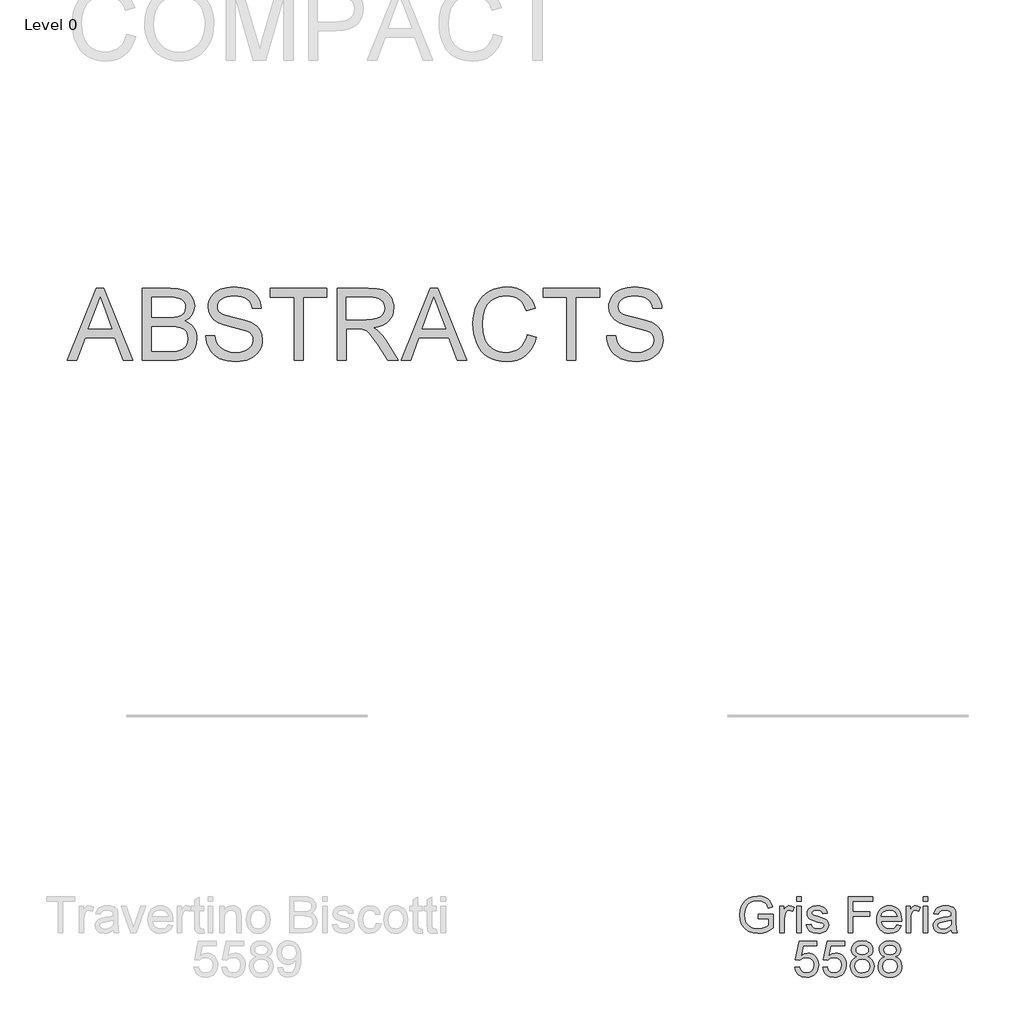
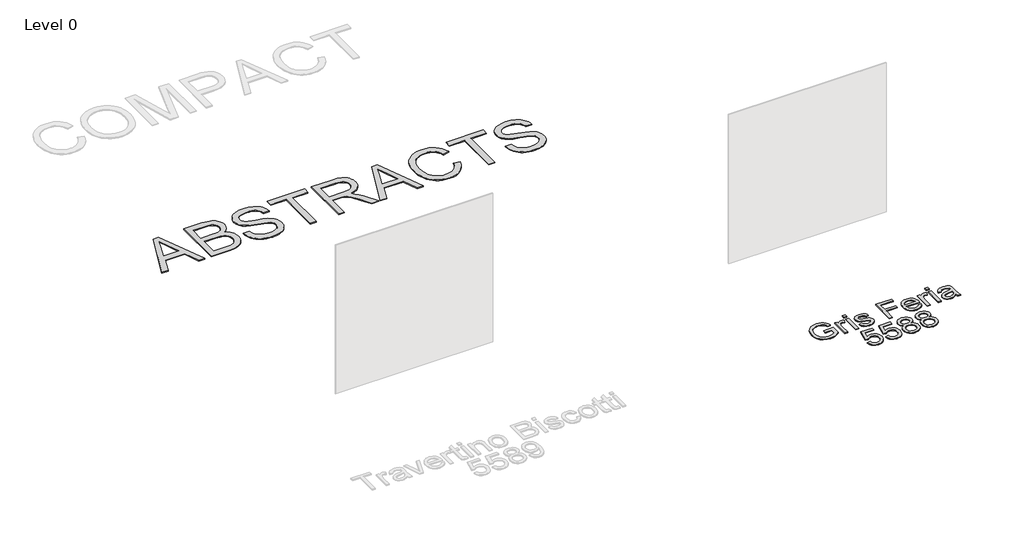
# One storey, part 4 of 8: 2 proxies.
"""IFC4 building model written with IfcOpenShell, lengths in millimetres."""

from ifc_helpers import new_model, si_unit, origin, origin_with_axes, place, context, project, spatial, polyline, outline, extrude, element, save

model = new_model("IFC4")

# Units and contexts
model_context = context("Model", 3, world=origin())
ifc_project = project(units=[si_unit("LENGTHUNIT", "METRE", prefix="MILLI")], contexts=[model_context])

# Site, building, storey
site = spatial("IfcSite", under=ifc_project)
building = spatial("IfcBuilding", under=site)
storey = spatial("IfcBuildingStorey", under=building, Name="Level 0", Elevation=0.0)

# Proxies
placement = place(None, origin())
element("IfcBuildingElementProxy", 1, Name="300mm Arial", ObjectType="300mm Arial", at=placement, inside=storey, context=model_context, shape_type="SweptSolid", body=[
    extrude(outline(polyline([(-5197.0170481, -6885.1382555), (-5197.0170481, -6847.4671392), (-5074.5859201, -6847.4671392), (-5074.5859201, -6960.1126061), (-5104.3383765, -6980.8059684), (-5135.0289319, -6995.6500069), (-5166.5840101, -7004.5895394), (-5198.9300345, -7007.5693835), (-5241.1904787, -7002.8329028), (-5279.3858268, -6988.6234608), (-5311.1156489, -6965.437698), (-5333.9795149, -6933.7722553), (-5347.8026809, -6895.7884393), (-5352.4104029, -6853.6475567), (-5347.821075, -6811.2031715), (-5334.0530913, -6771.7202364), (-5311.676669, -6738.6016598), (-5281.262025, -6715.2503502), (-5244.2163081, -6701.399593), (-5201.9466669, -6696.782674), (-5170.9158206, -6699.4590155), (-5143.0119712, -6707.4880401), (-5119.5135088, -6720.2903335), (-5101.6988232, -6737.2864817), (-5088.5194507, -6759.295022), (-5078.9269277, -6787.134492), (-5113.654988, -6796.9201531), (-5121.4081011, -6777.0637224), (-5130.8350772, -6762.0817281), (-5143.3062768, -6750.7877509), (-5160.1920604, -6741.9953712), (-5180.3244026, -6736.3391855), (-5202.535278, -6734.4537903), (-5228.5353381, -6736.4863383), (-5250.7646076, -6742.5839824), (-5269.1403133, -6751.9833674), (-5283.5796816, -6763.9211381), (-5302.9670627, -6792.9470275), (-5311.7962306, -6821.3843058), (-5314.7392866, -6852.1024524), (-5311.1984224, -6888.1272967), (-5300.5758298, -6917.7693885), (-5283.1934055, -6940.8171955), (-5259.3730463, -6957.0591856), (-5231.4967881, -6966.6884968), (-5201.9466669, -6969.8982672), (-5175.8546363, -6967.4794431), (-5150.4063993, -6960.2229707), (-5128.3058885, -6950.2257775), (-5112.2570364, -6939.5847908), (-5112.2570364, -6885.1382555), (-5197.0170481, -6885.1382555)])), origin_with_axes(), (0.0, 0.0, 1.0), 10.0),
    extrude(outline(polyline([(-5018.0792457, -7002.860494), (-5018.0792457, -6781.5426857), (-4985.1170189, -6781.5426857), (-4985.1170189, -6814.2841833), (-4972.9401249, -6795.3014723), (-4961.719724, -6784.1178596), (-4950.462535, -6778.654812), (-4938.1752763, -6776.8337961), (-4919.4132946, -6779.7400639), (-4900.3570072, -6788.4588672), (-4912.9385714, -6822.2304343), (-4926.1823233, -6816.4362929), (-4939.4260751, -6814.5049125), (-4950.6740671, -6816.3627165), (-4960.7264426, -6821.9361288), (-4968.8474377, -6830.8020848), (-4974.3012882, -6842.5375205), (-4978.8814191, -6863.5803706), (-4980.4081294, -6886.5362071), (-4980.4081294, -7002.860494), (-5018.0792457, -7002.860494)])), origin_with_axes(), (0.0, 0.0, 1.0), 10.0),
    extrude(outline(polyline([(-4876.8125595, -6739.1626798), (-4876.8125595, -6701.4915635), (-4839.1414432, -6701.4915635), (-4839.1414432, -6739.1626798), (-4876.8125595, -6739.1626798)])), origin_with_axes(), (0.0, 0.0, 1.0), 10.0),
    extrude(outline(polyline([(-4876.8125595, -7002.860494), (-4876.8125595, -6781.5426857), (-4839.1414432, -6781.5426857), (-4839.1414432, -7002.860494), (-4876.8125595, -7002.860494)])), origin_with_axes(), (0.0, 0.0, 1.0), 10.0),
    extrude(outline(polyline([(-4796.7614374, -6936.9360404), (-4759.0903211, -6932.2271509), (-4753.1490268, -6948.3403823), (-4741.6527145, -6960.1861825), (-4724.5278076, -6967.470246), (-4701.7007298, -6969.8982672), (-4679.1495635, -6967.6725811), (-4663.2938495, -6960.9955229), (-4653.9128586, -6951.3202265), (-4650.7858617, -6940.0998256), (-4653.9312527, -6930.4981055), (-4663.3674259, -6923.1772538), (-4702.1421882, -6912.4350996), (-4758.8695919, -6894.0042116), (-4773.2261867, -6884.7427824), (-4783.6280501, -6872.4831149), (-4789.9464234, -6858.0069584), (-4792.0525478, -6842.0960621), (-4790.3602907, -6827.5003439), (-4785.2835191, -6814.0266659), (-4777.2820857, -6802.2084568), (-4766.815843, -6792.5791455), (-4742.8667251, -6781.4323211), (-4710.4563213, -6776.8337961), (-4685.9369863, -6778.6824032), (-4664.6182247, -6784.2282242), (-4647.4749237, -6792.9286334), (-4635.4819707, -6804.2410048), (-4627.5357196, -6819.0022698), (-4622.5325245, -6838.0493601), (-4660.2036408, -6842.7582497), (-4664.9585155, -6830.9032524), (-4674.3670976, -6821.972917), (-4688.5213573, -6816.3719136), (-4707.5132653, -6814.5049125), (-4729.1447267, -6816.2891401), (-4743.5657009, -6821.6418232), (-4751.6774989, -6829.3673451), (-4754.3814315, -6838.2700893), (-4749.8932712, -6849.2329728), (-4735.840179, -6857.5471059), (-4703.392987, -6865.5669334), (-4648.1003231, -6883.2988455), (-4633.4954079, -6891.7785255), (-4622.4221599, -6903.3852025), (-4615.441599, -6918.1556646), (-4613.1147454, -6936.1267001), (-4615.8462692, -6954.7047408), (-4624.0408406, -6972.1791356), (-4637.38576, -6987.1795239), (-4655.5683276, -6998.3355454), (-4677.5308827, -7005.260924), (-4702.2157646, -7007.5693835), (-4740.1995806, -7003.1180114), (-4767.9194889, -6989.763895), (-4786.4239533, -6967.654187), (-4796.7614374, -6936.9360404)])), origin_with_axes(), (0.0, 0.0, 1.0), 10.0),
    extrude(outline(polyline([(-4448.3036115, -7002.860494), (-4448.3036115, -6701.4915635), (-4245.8213614, -6701.4915635), (-4245.8213614, -6739.1626798), (-4410.6324952, -6739.1626798), (-4410.6324952, -6828.6315811), (-4269.3658091, -6828.6315811), (-4269.3658091, -6866.3026974), (-4410.6324952, -6866.3026974), (-4410.6324952, -7002.860494), (-4448.3036115, -7002.860494)])), origin_with_axes(), (0.0, 0.0, 1.0), 10.0),
    extrude(outline(polyline([(-4043.7805696, -6936.9360404), (-4006.8452173, -6941.64493), (-4020.1533485, -6969.4752029), (-4041.3893367, -6990.2789297), (-4070.0749352, -7003.2467701), (-4105.7318976, -7007.5693835), (-4129.1061999, -7005.7046817), (-4149.9329194, -7000.1105761), (-4168.212056, -6990.7870668), (-4183.9436098, -6977.7341537), (-4196.5941519, -6961.3151204), (-4205.6302534, -6941.8932503), (-4211.0519143, -6919.4685435), (-4212.8591346, -6894.0409998), (-4211.0335202, -6867.7512327), (-4205.556677, -6844.5792656), (-4196.428605, -6824.5250983), (-4183.6493042, -6807.5887309), (-4167.9591371, -6794.133447), (-4150.0984662, -6784.5225298), (-4130.0672916, -6778.7559796), (-4107.8656132, -6776.8337961), (-4086.3790054, -6778.751381), (-4066.9479383, -6784.5041357), (-4049.5724118, -6794.0920602), (-4034.252426, -6807.5151545), (-4021.7467374, -6824.4147337), (-4012.8141027, -6844.4321128), (-4007.4545219, -6867.5672917), (-4005.6679949, -6893.8202706), (-4005.8887241, -6903.9738137), (-4175.1880183, -6903.9738137), (-4168.66731, -6932.1719686), (-4153.5197688, -6952.902119), (-4131.6583812, -6965.6492302), (-4104.9961336, -6969.8982672), (-4084.9465649, -6967.9300985), (-4068.0607813, -6962.0255925), (-4054.3387829, -6951.8168672), (-4043.7805696, -6936.9360404)]), holes=[polyline([(-4175.1880183, -6866.3026974), (-4043.3391112, -6866.3026974), (-4048.4342769, -6846.4002814), (-4058.422273, -6832.1632482), (-4080.3848282, -6818.9194964), (-4108.012766, -6814.5049125), (-4133.4058207, -6818.0273826), (-4154.4026856, -6828.5947929), (-4168.9984038, -6845.0667092), (-4175.1880183, -6866.3026974)])]), origin_with_axes(), (0.0, 0.0, 1.0), 10.0),
    extrude(outline(polyline([(-3967.9968786, -7002.860494), (-3967.9968786, -6781.5426857), (-3935.0346519, -6781.5426857), (-3935.0346519, -6814.2841833), (-3922.8577578, -6795.3014723), (-3911.637357, -6784.1178596), (-3900.3801679, -6778.654812), (-3888.0929093, -6776.8337961), (-3869.3309275, -6779.7400639), (-3850.2746402, -6788.4588672), (-3862.8562044, -6822.2304343), (-3876.0999562, -6816.4362929), (-3889.3437081, -6814.5049125), (-3900.5917001, -6816.3627165), (-3910.6440756, -6821.9361288), (-3918.7650706, -6830.8020848), (-3924.2189212, -6842.5375205), (-3928.799052, -6863.5803706), (-3930.3257623, -6886.5362071), (-3930.3257623, -7002.860494), (-3967.9968786, -7002.860494)])), origin_with_axes(), (0.0, 0.0, 1.0), 10.0),
    extrude(outline(polyline([(-3826.7301925, -6739.1626798), (-3826.7301925, -6701.4915635), (-3789.0590762, -6701.4915635), (-3789.0590762, -6739.1626798), (-3826.7301925, -6739.1626798)])), origin_with_axes(), (0.0, 0.0, 1.0), 10.0),
    extrude(outline(polyline([(-3826.7301925, -7002.860494), (-3826.7301925, -6781.5426857), (-3789.0590762, -6781.5426857), (-3789.0590762, -7002.860494), (-3826.7301925, -7002.860494)])), origin_with_axes(), (0.0, 0.0, 1.0), 10.0),
    extrude(outline(polyline([(-3591.2857156, -6974.6071568), (-3609.2843422, -6990.0398064), (-3627.8163977, -7000.1381672), (-3647.3049464, -7005.7115794), (-3668.1730526, -7007.5693835), (-3699.6545543, -7003.0996173), (-3722.8771052, -6989.6903186), (-3737.1969119, -6969.3280501), (-3741.9701808, -6943.9993748), (-3740.167559, -6928.3827841), (-3734.7596937, -6914.2009331), (-3726.4179695, -6902.0608273), (-3715.8137709, -6892.5694718), (-3689.4366319, -6880.2086368), (-3656.8422871, -6874.5432541), (-3618.3250422, -6868.5835657), (-3591.5064448, -6861.5938078), (-3591.2857156, -6853.2060983), (-3593.8792836, -6836.3938912), (-3601.6599878, -6825.3942195), (-3619.0608062, -6817.2272392), (-3643.3042297, -6814.5049125), (-3665.7450314, -6816.3167313), (-3681.4168044, -6821.7521878), (-3692.1037764, -6831.8045633), (-3699.590175, -6847.4671392), (-3737.2612913, -6842.7582497), (-3730.7221888, -6822.156858), (-3720.9641189, -6805.9700502), (-3707.0765736, -6793.590821), (-3688.1490449, -6784.4121652), (-3665.0000704, -6778.7283884), (-3638.4481874, -6776.8337961), (-3612.9815562, -6778.5076592), (-3592.7940318, -6783.5292485), (-3577.5729142, -6791.0800264), (-3567.0055039, -6800.3414556), (-3559.9973519, -6811.7917827), (-3555.4540092, -6825.9092543), (-3553.6145993, -6858.8714811), (-3553.6145993, -6905.7396473), (-3551.7016129, -6971.1858542), (-3544.1968202, -7002.860494), (-3581.8679365, -7002.860494), (-3591.2857156, -6974.6071568)]), holes=[polyline([(-3591.2857156, -6899.2649241), (-3652.0598212, -6910.8164188), (-3684.470225, -6916.9232599), (-3699.1487166, -6926.8560738), (-3704.2990645, -6941.3506244), (-3701.4939643, -6952.5526311), (-3693.0786636, -6961.7312869), (-3679.2371036, -6967.8565221), (-3660.1532251, -6969.8982672), (-3639.9197153, -6967.64499), (-3622.0406504, -6960.8851583), (-3607.5460998, -6950.9247533), (-3597.4661331, -6939.069756), (-3592.9963669, -6926.8560738), (-3591.5064448, -6909.933502), (-3591.2857156, -6899.2649241)])]), origin_with_axes(), (0.0, 0.0, 1.0), 10.0),
    extrude(outline(polyline([(-4893.2936729, -7288.7338254), (-4855.6225566, -7284.0249358), (-4848.7063751, -7306.6404815), (-4836.6398456, -7322.8364863), (-4819.4781506, -7332.5761621), (-4797.2764722, -7335.8227207), (-4770.2739337, -7331.3069693), (-4750.040424, -7317.7597148), (-4737.4036774, -7296.7444558), (-4733.1914286, -7269.8246908), (-4737.136963, -7244.4776213), (-4748.9735662, -7225.0902402), (-4768.7932087, -7212.7845875), (-4796.687861, -7208.6827032), (-4814.9623991, -7210.3197781), (-4829.7604523, -7215.2310027), (-4850.9136671, -7232.2271509), (-4888.5847834, -7227.5182614), (-4855.6225566, -7072.1249066), (-4709.6469809, -7072.1249066), (-4709.6469809, -7109.7960229), (-4825.1619274, -7109.7960229), (-4841.2751588, -7192.790201), (-4814.3645908, -7176.4562404), (-4786.1664359, -7171.0115869), (-4767.8206207, -7172.6992456), (-4750.969326, -7177.7622215), (-4735.612552, -7186.2005148), (-4721.7502986, -7198.0141254), (-4710.2746796, -7212.4810848), (-4702.0778089, -7228.8794248), (-4697.1596864, -7247.2091452), (-4695.5203123, -7267.470246), (-4701.4248183, -7305.1413624), (-4708.8054508, -7321.9351754), (-4719.1383364, -7337.3678251), (-4734.7917153, -7353.1729553), (-4753.0570563, -7364.4623341), (-4773.9343596, -7371.2359613), (-4797.423625, -7373.4938371), (-4834.4233566, -7367.6904986), (-4850.1020274, -7360.4363255), (-4863.8999015, -7350.2804832), (-4875.380119, -7337.7288093), (-4884.1058201, -7323.2871418), (-4893.2936729, -7288.7338254)])), origin_with_axes(), (0.0, 0.0, 1.0), 10.0),
    extrude(outline(polyline([(-4662.5580855, -7288.7338254), (-4624.8869692, -7284.0249358), (-4617.9707877, -7306.6404815), (-4605.9042583, -7322.8364863), (-4588.7425632, -7332.5761621), (-4566.5408848, -7335.8227207), (-4539.5383463, -7331.3069693), (-4519.3048366, -7317.7597148), (-4506.6680901, -7296.7444558), (-4502.4558412, -7269.8246908), (-4506.4013756, -7244.4776213), (-4518.2379788, -7225.0902402), (-4538.0576213, -7212.7845875), (-4565.9522736, -7208.6827032), (-4584.2268117, -7210.3197781), (-4599.024865, -7215.2310027), (-4620.1780797, -7232.2271509), (-4657.849196, -7227.5182614), (-4624.8869692, -7072.1249066), (-4478.9113935, -7072.1249066), (-4478.9113935, -7109.7960229), (-4594.42634, -7109.7960229), (-4610.5395714, -7192.790201), (-4583.6290035, -7176.4562404), (-4555.4308485, -7171.0115869), (-4537.0850333, -7172.6992456), (-4520.2337386, -7177.7622215), (-4504.8769646, -7186.2005148), (-4491.0147112, -7198.0141254), (-4479.5390922, -7212.4810848), (-4471.3422215, -7228.8794248), (-4466.4240991, -7247.2091452), (-4464.7847249, -7267.470246), (-4470.6892309, -7305.1413624), (-4478.0698635, -7321.9351754), (-4488.402749, -7337.3678251), (-4504.0561279, -7353.1729553), (-4522.321469, -7364.4623341), (-4543.1987722, -7371.2359613), (-4566.6880376, -7373.4938371), (-4603.6877693, -7367.6904986), (-4619.36644, -7360.4363255), (-4633.1643141, -7350.2804832), (-4644.6445316, -7337.7288093), (-4653.3702327, -7323.2871418), (-4662.5580855, -7288.7338254)])), origin_with_axes(), (0.0, 0.0, 1.0), 10.0),
    extrude(outline(polyline([(-4376.9345045, -7202.7965913), (-4397.1036349, -7192.8637774), (-4411.2578946, -7179.3992964), (-4419.618013, -7162.6790597), (-4422.4047191, -7142.9789789), (-4420.8872058, -7127.6153071), (-4416.3346662, -7113.5300252), (-4408.7471, -7100.7231332), (-4398.1245074, -7089.1946312), (-4384.9773246, -7079.6664875), (-4369.8159879, -7072.8606706), (-4333.4508526, -7067.4160171), (-4296.8649882, -7072.9894293), (-4281.5381046, -7079.9561946), (-4268.1885867, -7089.709666), (-4257.372856, -7101.4634957), (-4249.6473341, -7114.4313361), (-4245.012021, -7128.613187), (-4243.4669166, -7144.0090485), (-4246.2168345, -7163.0745329), (-4254.4665883, -7179.509661), (-4268.3081483, -7192.8913686), (-4287.8334852, -7202.7965913), (-4264.6477225, -7214.7435591), (-4247.771136, -7232.3375155), (-4237.4796372, -7254.732332), (-4234.0491375, -7281.0818799), (-4235.7505918, -7299.8714528), (-4240.8549545, -7317.0975272), (-4249.3622256, -7332.7601031), (-4261.2724052, -7346.8591806), (-4275.9600938, -7358.5118428), (-4292.7998922, -7366.8351729), (-4311.7918002, -7371.829171), (-4332.9358179, -7373.4938371), (-4354.0798355, -7371.8222732), (-4373.0717435, -7366.8075818), (-4389.9115419, -7358.4497627), (-4404.5992305, -7346.748816), (-4416.5094101, -7332.5508703), (-4425.0166812, -7316.702054), (-4430.1210439, -7299.2023674), (-4431.8224982, -7280.0518103), (-4428.2540428, -7252.6813898), (-4417.5486767, -7230.1670117), (-4400.258223, -7213.2812282), (-4376.9345045, -7202.7965913)]), holes=[polyline([(-4384.7336028, -7144.0826249), (-4381.3950737, -7160.52695), (-4371.3794863, -7173.6603373), (-4354.9811464, -7182.268776), (-4332.4943595, -7185.1382555), (-4310.5318043, -7182.2871701), (-4294.3817848, -7173.7339137), (-4284.4489709, -7161.0419848), (-4281.1380329, -7145.774882), (-4284.5593355, -7129.9283651), (-4294.8232432, -7116.822569), (-4311.1939919, -7108.0209923), (-4332.9358179, -7105.0871334), (-4354.8155995, -7107.9566129), (-4371.1587571, -7116.5650516), (-4381.3398914, -7129.1834041), (-4384.7336028, -7144.0826249)]), polyline([(-4394.1513818, -7278.7274351), (-4387.8605997, -7307.0911369), (-4379.1509935, -7319.2588339), (-4365.603739, -7328.317928), (-4349.380143, -7333.9465226), (-4332.6415123, -7335.8227207), (-4307.0001372, -7331.8771864), (-4287.7599088, -7320.0405832), (-4275.7301676, -7302.1155329), (-4271.7202539, -7279.9046575), (-4275.8589263, -7257.316703), (-4288.2749436, -7238.9961796), (-4307.9566304, -7226.8560738), (-4333.892311, -7222.8093718), (-4359.1750012, -7226.8008915), (-4378.2220915, -7238.7754504), (-4390.1690593, -7256.7464859), (-4394.1513818, -7278.7274351)])]), origin_with_axes(), (0.0, 0.0, 1.0), 10.0),
    extrude(outline(polyline([(-4146.1989171, -7202.7965913), (-4166.3680475, -7192.8637774), (-4180.5223072, -7179.3992964), (-4188.8824256, -7162.6790597), (-4191.6691317, -7142.9789789), (-4190.1516185, -7127.6153071), (-4185.5990788, -7113.5300252), (-4178.0115126, -7100.7231332), (-4167.38892, -7089.1946312), (-4154.2417372, -7079.6664875), (-4139.0804005, -7072.8606706), (-4102.7152653, -7067.4160171), (-4066.1294008, -7072.9894293), (-4050.8025172, -7079.9561946), (-4037.4529993, -7089.709666), (-4026.6372687, -7101.4634957), (-4018.9117468, -7114.4313361), (-4014.2764336, -7128.613187), (-4012.7313292, -7144.0090485), (-4015.4812472, -7163.0745329), (-4023.7310009, -7179.509661), (-4037.572561, -7192.8913686), (-4057.0978979, -7202.7965913), (-4033.9121351, -7214.7435591), (-4017.0355486, -7232.3375155), (-4006.7440498, -7254.732332), (-4003.3135502, -7281.0818799), (-4005.0150044, -7299.8714528), (-4010.1193671, -7317.0975272), (-4018.6266382, -7332.7601031), (-4030.5368178, -7346.8591806), (-4045.2245065, -7358.5118428), (-4062.0643048, -7366.8351729), (-4081.0562128, -7371.829171), (-4102.2002305, -7373.4938371), (-4123.3442481, -7371.8222732), (-4142.3361561, -7366.8075818), (-4159.1759545, -7358.4497627), (-4173.8636431, -7346.748816), (-4185.7738227, -7332.5508703), (-4194.2810939, -7316.702054), (-4199.3854566, -7299.2023674), (-4201.0869108, -7280.0518103), (-4197.5184554, -7252.6813898), (-4186.8130894, -7230.1670117), (-4169.5226356, -7213.2812282), (-4146.1989171, -7202.7965913)]), holes=[polyline([(-4153.9980154, -7144.0826249), (-4150.6594863, -7160.52695), (-4140.643899, -7173.6603373), (-4124.245559, -7182.268776), (-4101.7587721, -7185.1382555), (-4079.796217, -7182.2871701), (-4063.6461974, -7173.7339137), (-4053.7133835, -7161.0419848), (-4050.4024456, -7145.774882), (-4053.8237481, -7129.9283651), (-4064.0876558, -7116.822569), (-4080.4584046, -7108.0209923), (-4102.2002305, -7105.0871334), (-4124.0800121, -7107.9566129), (-4140.4231698, -7116.5650516), (-4150.604304, -7129.1834041), (-4153.9980154, -7144.0826249)]), polyline([(-4163.4157945, -7278.7274351), (-4157.1250124, -7307.0911369), (-4148.4154061, -7319.2588339), (-4134.8681516, -7328.317928), (-4118.6445557, -7333.9465226), (-4101.9059249, -7335.8227207), (-4076.2645498, -7331.8771864), (-4057.0243215, -7320.0405832), (-4044.9945802, -7302.1155329), (-4040.9846665, -7279.9046575), (-4045.1233389, -7257.316703), (-4057.5393563, -7238.9961796), (-4077.221043, -7226.8560738), (-4103.1567237, -7222.8093718), (-4128.4394138, -7226.8008915), (-4147.4865041, -7238.7754504), (-4159.4334719, -7256.7464859), (-4163.4157945, -7278.7274351)])]), origin_with_axes(), (0.0, 0.0, 1.0), 10.0),
])
element("IfcBuildingElementProxy", 2, Name="600mm Arial", ObjectType="600mm Arial", at=placement, inside=storey, context=model_context, shape_type="SweptSolid", body=[
    extrude(outline(polyline([(-10947.6550699, -2239.8720473), (-10707.0602451, -1637.1341864), (-10642.9016251, -1637.1341864), (-10402.3068003, -2239.8720473), (-10481.916464, -2239.8720473), (-10550.9311263, -2051.5164658), (-10799.1778967, -2051.5164658), (-10868.0454062, -2239.8720473), (-10947.6550699, -2239.8720473)]), holes=[polyline([(-10771.5131706, -1976.1742332), (-10578.4486996, -1976.1742332), (-10632.748082, -1827.9913655), (-10674.9809351, -1712.476419), (-10712.5048986, -1815.0419193), (-10771.5131706, -1976.1742332)])]), origin_with_axes(), (0.0, 0.0, 1.0), 10.0),
    extrude(outline(polyline([(-10321.8142197, -2239.8720473), (-10321.8142197, -1637.1341864), (-10091.8143963, -1637.1341864), (-10028.5570873, -1641.5671645), (-9979.1689294, -1654.8660986), (-9959.0917695, -1664.9230726), (-9941.3138721, -1677.3620826), (-9925.8352372, -1692.1831285), (-9912.6558647, -1709.3862103), (-9894.6112528, -1747.0573266), (-9888.5963822, -1786.4942765), (-9893.6547596, -1822.7858353), (-9908.8298919, -1856.9068903), (-9934.2321437, -1886.7605143), (-9969.9718795, -1910.2497797), (-9947.2321737, -1919.9434702), (-9927.279174, -1932.5434286), (-9910.1128804, -1948.0496547), (-9895.7332929, -1966.4621485), (-9884.3703378, -1987.2198901), (-9876.2539413, -2009.7618593), (-9871.3841034, -2034.0880563), (-9869.7608241, -2060.1984809), (-9874.1938021, -2102.2289988), (-9887.4927362, -2141.2060962), (-9907.3399699, -2174.352264), (-9931.4178464, -2198.8899931), (-9960.9035884, -2216.6586934), (-9996.974418, -2229.4977751), (-10040.8075577, -2237.2784793), (-10093.5802299, -2239.8720473), (-10321.8142197, -2239.8720473)]), holes=[polyline([(-10246.4719871, -1881.9964424), (-10108.8841209, -1881.9964424), (-10060.7651559, -1880.3777616), (-10028.5386932, -1875.5217193), (-10000.4141146, -1864.3565008), (-9980.198999, -1847.6362641), (-9968.0037109, -1825.6185267), (-9963.9386148, -1798.5608059), (-9967.7277994, -1772.2940315), (-9979.095353, -1749.4117714), (-9997.526241, -1731.5511005), (-10022.5054285, -1720.3490937), (-10060.8387323, -1714.4445877), (-10119.3319696, -1712.476419), (-10246.4719871, -1712.476419), (-10246.4719871, -1881.9964424)]), polyline([(-10246.4719871, -2164.5298147), (-10091.9615491, -2164.5298147), (-10036.0434859, -2161.5867588), (-10010.0894111, -2155.0568533), (-9988.7338613, -2145.1792218), (-9971.3698311, -2131.0341591), (-9957.3903153, -2111.7019602), (-9948.1748713, -2088.0471479), (-9945.1030567, -2060.9342449), (-9948.7083002, -2029.4435461), (-9959.5240309, -2002.3674312), (-9978.4147713, -1981.1958224), (-10006.2450443, -1967.4186417), (-10045.6636, -1959.8586667), (-10099.319189, -1957.338675), (-10246.4719871, -1957.338675), (-10246.4719871, -2164.5298147)])]), origin_with_axes(), (0.0, 0.0, 1.0), 10.0),
    extrude(outline(polyline([(-9794.4185914, -2032.6809076), (-9719.0763588, -2032.6809076), (-9710.4311319, -2074.4906964), (-9694.7961471, -2108.0967167), (-9670.4055709, -2134.7681613), (-9635.4935695, -2155.7742232), (-9592.8192581, -2169.4042512), (-9545.1417515, -2173.9475938), (-9503.1664159, -2170.5078971), (-9466.4150045, -2160.1888072), (-9436.634957, -2143.8548466), (-9415.5737128, -2122.3705381), (-9403.0473309, -2097.7040503), (-9398.8718702, -2071.8235519), (-9401.9988672, -2046.6052412), (-9411.3798581, -2024.8082329), (-9430.4361454, -2006.2117981), (-9462.5890318, -1990.5952074), (-9572.2914428, -1961.8268354), (-9644.3043433, -1942.7889421), (-9690.3815632, -1924.6707539), (-9727.8871326, -1899.3236844), (-9754.4666068, -1868.6055378), (-9770.3039267, -1833.1785017), (-9775.5830333, -1793.7047636), (-9773.9505569, -1771.2685604), (-9769.0531279, -1749.5773183), (-9760.8907461, -1728.6310372), (-9749.4634116, -1708.4297171), (-9734.8998831, -1689.796494), (-9717.3289194, -1673.554504), (-9696.7505202, -1659.7037468), (-9673.1646858, -1648.2442227), (-9620.1528903, -1632.8483612), (-9561.4757121, -1627.7164074), (-9497.9057033, -1633.0874845), (-9442.2819457, -1649.2007159), (-9417.9465517, -1661.202866), (-9396.5910019, -1675.7250077), (-9378.2152962, -1692.7671412), (-9362.8194347, -1712.3292662), (-9350.522979, -1733.8411659), (-9341.4454908, -1756.7326231), (-9335.58697, -1781.0036377), (-9332.9474167, -1806.6542098), (-9408.2896493, -1806.6542098), (-9413.3296326, -1782.6131214), (-9422.1220123, -1761.69903), (-9434.6667884, -1743.9119355), (-9450.9639607, -1729.251838), (-9471.3170321, -1717.7923139), (-9496.0295052, -1709.6069395), (-9525.1013798, -1704.6957148), (-9558.5326561, -1703.05864), (-9593.0307902, -1704.6773207), (-9622.5073351, -1709.5333631), (-9646.9622907, -1717.626767), (-9666.3956571, -1728.9575324), (-9681.2029074, -1742.5783633), (-9691.7795148, -1757.5419635), (-9698.1254792, -1773.8483329), (-9700.2408007, -1791.4974716), (-9698.7416815, -1806.681801), (-9694.2443242, -1820.4497846), (-9686.7487285, -1832.8014226), (-9676.2548946, -1843.7367149), (-9659.736993, -1854.0925931), (-9633.7277359, -1864.5588358), (-9553.2351554, -1885.8224152), (-9470.1674009, -1906.0191367), (-9419.9147204, -1923.6406843), (-9376.9644974, -1950.9743165), (-9360.3592239, -1967.0415627), (-9347.0005089, -1984.7090955), (-9336.7320027, -2003.8849445), (-9329.3973554, -2024.4771392), (-9323.5296376, -2069.9105656), (-9325.2172963, -2093.4780059), (-9330.2802722, -2116.3556674), (-9338.7185655, -2138.5435503), (-9350.5321761, -2160.0416544), (-9365.5141703, -2180.0176467), (-9383.4576146, -2197.6391943), (-9404.362509, -2212.9062971), (-9428.2288534, -2225.8189551), (-9454.3622707, -2236.0874613), (-9482.0683834, -2243.4221086), (-9542.1986955, -2249.2898264), (-9580.7389331, -2247.7079338), (-9616.0142179, -2242.9622561), (-9648.02455, -2235.0527932), (-9676.7699294, -2223.9795451), (-9702.4251, -2209.7241178), (-9725.1648058, -2192.2681172), (-9744.9890469, -2171.6115431), (-9761.8978231, -2147.7543957), (-9775.5186539, -2121.4692272), (-9785.479059, -2093.5285896), (-9791.7790381, -2063.9324831), (-9794.4185914, -2032.6809076)])), origin_with_axes(), (0.0, 0.0, 1.0), 10.0),
    extrude(outline(polyline([(-9059.8318235, -2239.8720473), (-9059.8318235, -1712.476419), (-9257.6051841, -1712.476419), (-9257.6051841, -1637.1341864), (-8786.7162303, -1637.1341864), (-8786.7162303, -1712.476419), (-8984.4895909, -1712.476419), (-8984.4895909, -2239.8720473), (-9059.8318235, -2239.8720473)])), origin_with_axes(), (0.0, 0.0, 1.0), 10.0),
    extrude(outline(polyline([(-8701.9562186, -2239.8720473), (-8701.9562186, -1637.1341864), (-8442.23153, -1637.1341864), (-8372.4259214, -1641.1992825), (-8321.6398119, -1653.3945706), (-8302.0408987, -1663.0882612), (-8284.5205186, -1675.9089487), (-8269.0786719, -1691.8566332), (-8255.7153584, -1710.9313147), (-8244.9318174, -1732.107522), (-8237.2292882, -1754.3597842), (-8232.6077706, -1777.6881012), (-8231.0672647, -1802.0924731), (-8233.6194461, -1833.049743), (-8241.2759901, -1861.4686271), (-8254.0368968, -1887.3491255), (-8271.9021662, -1910.691238), (-8295.1017245, -1930.7500038), (-8323.865498, -1946.7804618), (-8358.1934867, -1958.7826119), (-8398.0856905, -1966.7564541), (-8373.2536559, -1982.9800501), (-8355.2642263, -1998.9829169), (-8324.3989269, -2035.5871754), (-8294.1958151, -2076.5324415), (-8193.690454, -2239.8720473), (-8281.2463689, -2239.8720473), (-8359.6788103, -2114.9393218), (-8416.3326375, -2032.2394493), (-8437.3938817, -2008.1247845), (-8456.1374694, -1993.1703814), (-8491.9691757, -1978.8229836), (-8535.6735567, -1976.1742332), (-8626.613986, -1976.1742332), (-8626.613986, -2239.8720473), (-8701.9562186, -2239.8720473)]), holes=[polyline([(-8626.613986, -1900.8320006), (-8457.9768794, -1900.8320006), (-8409.5452147, -1898.1648561), (-8371.9660689, -1890.1634227), (-8343.6759435, -1876.2942715), (-8323.1113399, -1856.0239736), (-8310.584958, -1831.5046386), (-8306.4094973, -1804.8883762), (-8308.4006586, -1785.6205567), (-8314.3741425, -1768.1369649), (-8324.329949, -1752.4376008), (-8338.2680781, -1738.5224643), (-8356.5104266, -1727.1273195), (-8379.3788911, -1718.9879304), (-8406.8734717, -1714.1042969), (-8438.9941684, -1712.476419), (-8626.613986, -1712.476419), (-8626.613986, -1900.8320006)])]), origin_with_axes(), (0.0, 0.0, 1.0), 10.0),
    extrude(outline(polyline([(-8169.4102423, -2239.8720473), (-7928.8154175, -1637.1341864), (-7864.6567975, -1637.1341864), (-7624.0619727, -2239.8720473), (-7703.6716365, -2239.8720473), (-7772.6862987, -2051.5164658), (-8020.9330691, -2051.5164658), (-8089.8005786, -2239.8720473), (-8169.4102423, -2239.8720473)]), holes=[polyline([(-7993.2683431, -1976.1742332), (-7800.203872, -1976.1742332), (-7854.5032545, -1827.9913655), (-7896.7361075, -1712.476419), (-7934.260071, -1815.0419193), (-7993.2683431, -1976.1742332)])]), origin_with_axes(), (0.0, 0.0, 1.0), 10.0),
    extrude(outline(polyline([(-7119.7693337, -2025.6175733), (-7044.4271011, -2045.0417427), (-7059.3355189, -2091.8961133), (-7079.1919496, -2132.8367808), (-7103.9963932, -2167.8637453), (-7133.7488495, -2196.9770067), (-7167.7779341, -2219.8638653), (-7205.4122622, -2236.2116215), (-7246.6518338, -2246.0202752), (-7291.4966491, -2249.2898264), (-7337.4405117, -2246.81582), (-7378.887017, -2239.3938007), (-7415.8361649, -2227.0237686), (-7448.2879554, -2209.7057237), (-7476.6884454, -2187.6971834), (-7501.4836919, -2161.255665), (-7522.6736948, -2130.3811685), (-7540.2584542, -2095.073694), (-7554.0678246, -2056.8599518), (-7563.9316606, -2017.266652), (-7569.8499622, -1976.2937948), (-7571.8227294, -1933.9413801), (-7569.5924448, -1888.4987567), (-7562.901591, -1846.0543715), (-7551.750168, -1806.6082246), (-7536.1381758, -1770.1603159), (-7516.4151024, -1737.3130522), (-7492.9304355, -1708.6688404), (-7465.6841752, -1684.2276803), (-7434.6763216, -1663.9895721), (-7400.9599367, -1648.1200625), (-7365.5880829, -1636.7846985), (-7328.5607601, -1629.9834801), (-7289.8779683, -1627.7164074), (-7246.7851911, -1630.6502663), (-7207.2700663, -1639.451843), (-7171.3325939, -1654.1211376), (-7138.9727739, -1674.6581499), (-7110.7240352, -1700.5202542), (-7087.1198066, -1731.1648244), (-7068.1600883, -1766.5918605), (-7053.8448802, -1806.8013626), (-7129.1871128, -1824.754004), (-7141.0513071, -1795.1257078), (-7155.3067344, -1769.810828), (-7171.9533947, -1748.8093646), (-7190.991288, -1732.1213176), (-7212.5307788, -1719.4063961), (-7236.6822318, -1710.3243094), (-7263.4456469, -1704.8750573), (-7292.8210242, -1703.05864), (-7326.6201825, -1705.0727939), (-7357.5314672, -1711.1152557), (-7385.5548782, -1721.1860253), (-7410.6904155, -1735.2851027), (-7432.6207809, -1752.7778916), (-7451.0286763, -1773.0297954), (-7465.9141015, -1796.0408142), (-7477.2770566, -1821.810948), (-7491.6796367, -1876.9564591), (-7496.4804968, -1933.7942273), (-7490.7967199, -2003.3975008), (-7483.6919989, -2034.6674704), (-7473.7453895, -2063.5829952), (-7460.7959432, -2089.5692597), (-7444.6827118, -2112.0514481), (-7425.4056953, -2131.0295605), (-7402.9648936, -2146.503597), (-7378.4501571, -2158.5103456), (-7352.9513363, -2167.0865946), (-7326.4684312, -2172.232344), (-7299.0014418, -2173.9475938), (-7266.2461486, -2171.6115431), (-7236.1120147, -2164.6033911), (-7208.59904, -2152.9231378), (-7183.7072245, -2136.5707831), (-7162.0251794, -2115.6199035), (-7144.1415159, -2090.1440753), (-7130.056234, -2060.1432986), (-7119.7693337, -2025.6175733)])), origin_with_axes(), (0.0, 0.0, 1.0), 10.0),
    extrude(outline(polyline([(-6790.147066, -2239.8720473), (-6790.147066, -1712.476419), (-6987.9204266, -1712.476419), (-6987.9204266, -1637.1341864), (-6517.0314728, -1637.1341864), (-6517.0314728, -1712.476419), (-6714.8048334, -1712.476419), (-6714.8048334, -2239.8720473), (-6790.147066, -2239.8720473)])), origin_with_axes(), (0.0, 0.0, 1.0), 10.0),
    extrude(outline(polyline([(-6460.5247984, -2032.6809076), (-6385.1825657, -2032.6809076), (-6376.5373389, -2074.4906964), (-6360.9023541, -2108.0967167), (-6336.5117778, -2134.7681613), (-6301.5997764, -2155.7742232), (-6258.925465, -2169.4042512), (-6211.2479584, -2173.9475938), (-6169.2726228, -2170.5078971), (-6132.5212115, -2160.1888072), (-6102.7411639, -2143.8548466), (-6081.6799197, -2122.3705381), (-6069.1535378, -2097.7040503), (-6064.9780771, -2071.8235519), (-6068.1050741, -2046.6052412), (-6077.486065, -2024.8082329), (-6096.5423523, -2006.2117981), (-6128.6952387, -1990.5952074), (-6238.3976497, -1961.8268354), (-6310.4105502, -1942.7889421), (-6356.4877701, -1924.6707539), (-6393.9933395, -1899.3236844), (-6420.5728137, -1868.6055378), (-6436.4101336, -1833.1785017), (-6441.6892402, -1793.7047636), (-6440.0567638, -1771.2685604), (-6435.1593348, -1749.5773183), (-6426.996953, -1728.6310372), (-6415.5696185, -1708.4297171), (-6401.0060901, -1689.796494), (-6383.4351263, -1673.554504), (-6362.8567272, -1659.7037468), (-6339.2708927, -1648.2442227), (-6286.2590972, -1632.8483612), (-6227.581919, -1627.7164074), (-6164.0119102, -1633.0874845), (-6108.3881526, -1649.2007159), (-6084.0527586, -1661.202866), (-6062.6972088, -1675.7250077), (-6044.3215031, -1692.7671412), (-6028.9256416, -1712.3292662), (-6016.6291859, -1733.8411659), (-6007.5516977, -1756.7326231), (-6001.6931769, -1781.0036377), (-5999.0536236, -1806.6542098), (-6074.3958562, -1806.6542098), (-6079.4358395, -1782.6131214), (-6088.2282192, -1761.69903), (-6100.7729953, -1743.9119355), (-6117.0701677, -1729.251838), (-6137.423239, -1717.7923139), (-6162.1357121, -1709.6069395), (-6191.2075867, -1704.6957148), (-6224.638863, -1703.05864), (-6259.1369971, -1704.6773207), (-6288.613542, -1709.5333631), (-6313.0684976, -1717.626767), (-6332.501864, -1728.9575324), (-6347.3091143, -1742.5783633), (-6357.8857217, -1757.5419635), (-6364.2316861, -1773.8483329), (-6366.3470076, -1791.4974716), (-6364.8478885, -1806.681801), (-6360.3505311, -1820.4497846), (-6352.8549354, -1832.8014226), (-6342.3611015, -1843.7367149), (-6325.8431999, -1854.0925931), (-6299.8339429, -1864.5588358), (-6219.3413623, -1885.8224152), (-6136.2736078, -1906.0191367), (-6086.0209273, -1923.6406843), (-6043.0707043, -1950.9743165), (-6026.4654308, -1967.0415627), (-6013.1067158, -1984.7090955), (-6002.8382096, -2003.8849445), (-5995.5035623, -2024.4771392), (-5989.6358445, -2069.9105656), (-5991.3235032, -2093.4780059), (-5996.3864791, -2116.3556674), (-6004.8247724, -2138.5435503), (-6016.638383, -2160.0416544), (-6031.6203772, -2180.0176467), (-6049.5638215, -2197.6391943), (-6070.4687159, -2212.9062971), (-6094.3350604, -2225.8189551), (-6120.4684776, -2236.0874613), (-6148.1745903, -2243.4221086), (-6208.3049025, -2249.2898264), (-6246.84514, -2247.7079338), (-6282.1204248, -2242.9622561), (-6314.1307569, -2235.0527932), (-6342.8761363, -2223.9795451), (-6368.5313069, -2209.7241178), (-6391.2710128, -2192.2681172), (-6411.0952538, -2171.6115431), (-6428.00403, -2147.7543957), (-6441.6248608, -2121.4692272), (-6451.5852659, -2093.5285896), (-6457.885245, -2063.9324831), (-6460.5247984, -2032.6809076)])), origin_with_axes(), (0.0, 0.0, 1.0), 10.0),
])

save(model, "model.ifc")
